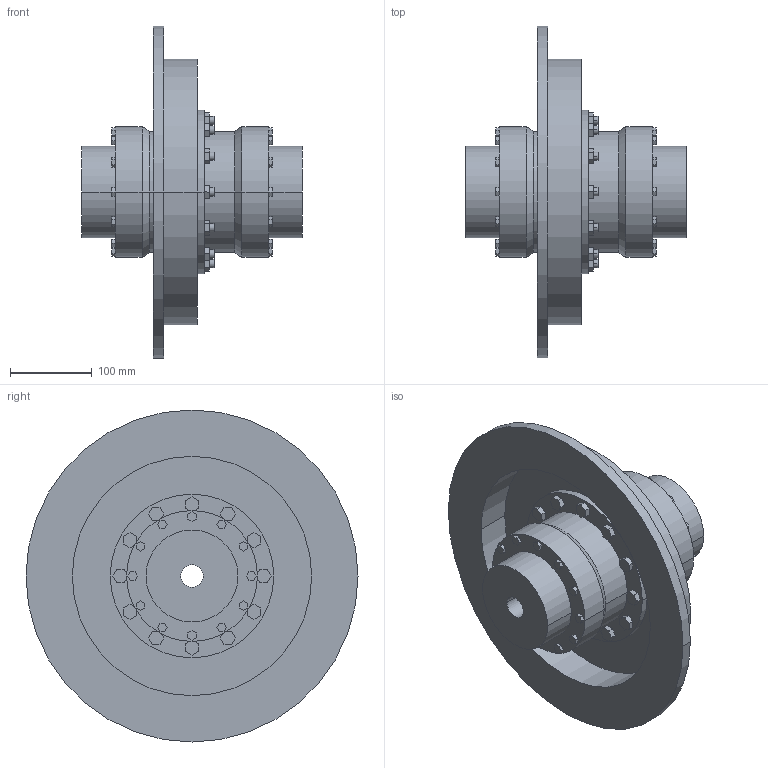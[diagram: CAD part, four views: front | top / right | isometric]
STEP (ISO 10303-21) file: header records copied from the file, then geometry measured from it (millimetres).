
FILE_DESCRIPTION((''),'2;1');
FILE_NAME('A19727000-0_ASM','2019-05-23T',('AB_Roschiwal'),('RENK AG'),'PRO/ENGINEER BY PARAMETRIC TECHNOLOGY CORPORATION, 2015440','PRO/ENGINEER BY PARAMETRIC TECHNOLOGY CORPORATION, 2015440','');
FILE_SCHEMA(('CONFIG_CONTROL_DESIGN'));
Length unit declared in the file: millimetre
Products named in the file (4): SBKT70_GEHAEUSE; SBKT70_NABE; SBKT70_BREMSSCHEIBE; A19727000-0_ASM
Assembly tree (4 placements, depth 2):
  A19727000-0_ASM
    SBKT70_GEHAEUSE
    SBKT70_NABE  x2
    SBKT70_BREMSSCHEIBE
Bounding box: 270 x 406 x 406 mm (x, y, z)
Volume: 5093146.1 mm3; surface area: 735855.2 mm2
Topology: 4 solids, 4 shells, 470 faces, 1156 edges, 768 vertices
Faces by surface type: plane 370, cylinder 96, cone 4
Entity records: 13604 total; most frequent: CARTESIAN_POINT 2350, ORIENTED_EDGE 2264, DIRECTION 2240, EDGE_CURVE 1132, VECTOR 956, LINE 956, VERTEX_POINT 752, AXIS2_PLACEMENT_3D 642
